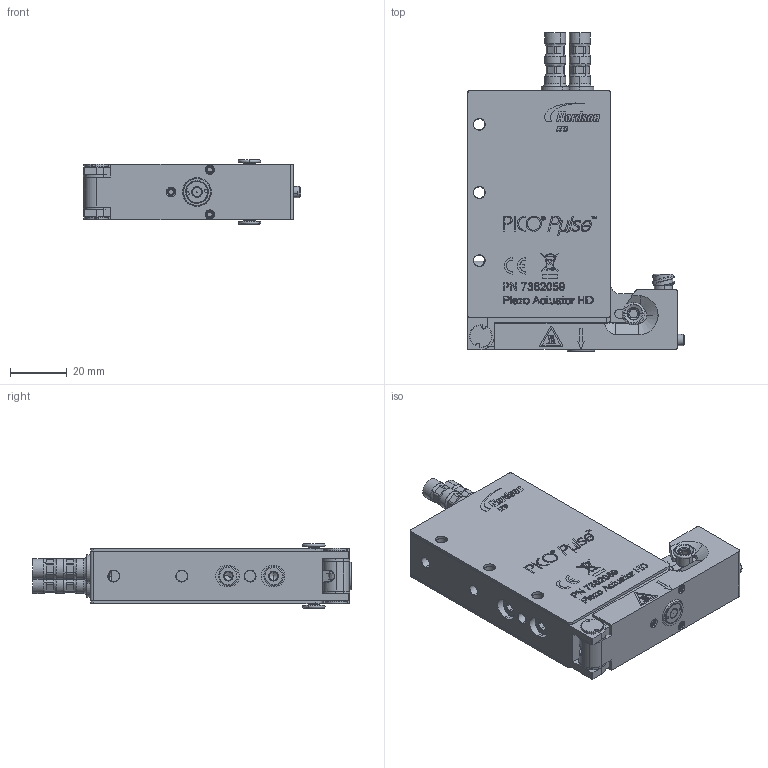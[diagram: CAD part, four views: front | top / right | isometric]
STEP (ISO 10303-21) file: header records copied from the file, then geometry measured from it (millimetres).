
FILE_DESCRIPTION (( 'STEP AP214' ), '1' );
FILE_NAME ('NORDSONEFD-7362059 PIEZO ACTUATOR PICO PULSE HD NEEDLE ADPT.STEP', '2018-12-27T04:57:31', ( '' ), ( '' ), 'SwSTEP 2.0', 'SolidWorks 2018', '' );
FILE_SCHEMA (( 'AUTOMOTIVE_DESIGN' ));
Length unit declared in the file: inch
Products named in the file (1): NORDSONEFD-7362059  PIEZO ACTUATOR PICO PULSE HD NEEDLE ADPT
Bounding box: 76.5 x 112.27 x 22.68 mm (x, y, z)
Surface area: 40383.9 mm2 (no closed solid volume)
Topology: 0 solids, 98 shells, 894 faces, 5433 edges, 4561 vertices
Faces by surface type: plane 470, cylinder 173, bspline 131, cone 92, torus 22, sphere 6
Entity records: 92046 total; most frequent: CARTESIAN_POINT 54052, ORIENTED_EDGE 6924, DIRECTION 5480, EDGE_CURVE 5424, VERTEX_POINT 4558, VECTOR 2850, LINE 2850, B_SPLINE_CURVE_WITH_KNOTS 1996
